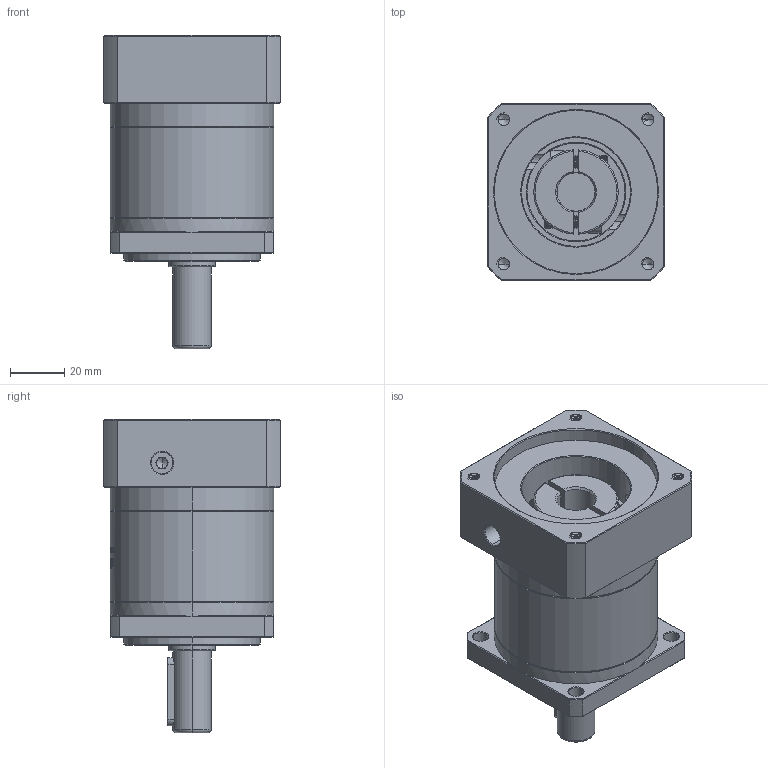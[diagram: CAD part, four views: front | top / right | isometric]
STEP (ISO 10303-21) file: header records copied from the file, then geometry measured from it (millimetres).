
FILE_DESCRIPTION (( 'STEP AP214' ), '1' );
FILE_NAME ('ZF60-D14-L1-14-60-75-M5.STEP', '2022-04-17T11:52:49', ( '' ), ( 'Microsoft' ), 'SwSTEP 2.0', 'SolidWorks 2016', '' );
FILE_SCHEMA (( 'AUTOMOTIVE_DESIGN' ));
Length unit declared in the file: millimetre
Products named in the file (1): ZF60-D14-L1-14-60-75-M5
Bounding box: 65 x 65 x 115 mm (x, y, z)
Volume: 233637 mm3; surface area: 46536 mm2
Topology: 6 solids, 6 shells, 1661 faces, 4485 edges, 2901 vertices
Faces by surface type: plane 749, cylinder 359, bspline 299, cone 234, torus 20
Entity records: 94457 total; most frequent: CARTESIAN_POINT 38249, ORIENTED_EDGE 8942, DIRECTION 6573, EDGE_CURVE 4471, VERTEX_POINT 2901, VECTOR 2283, LINE 2283, AXIS2_PLACEMENT_3D 2145
